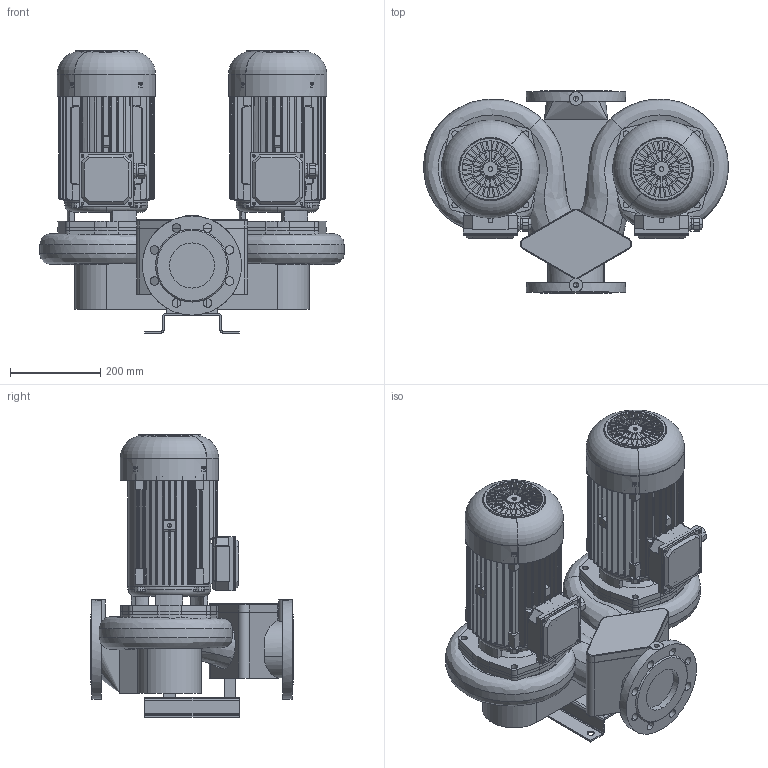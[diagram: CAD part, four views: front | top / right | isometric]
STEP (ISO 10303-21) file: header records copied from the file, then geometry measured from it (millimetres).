
FILE_DESCRIPTION(('STEP AP214'),'1');
FILE_NAME('export.stp','2018-05-28T12:33:37',(' '),(' '),'Spatial InterOp 3D',' ',' ');
FILE_SCHEMA(('AUTOMOTIVE_DESIGN { 1 0 10303 214 1 1 1 1 }'));
Length unit declared in the file: millimetre
Products named in the file (17): W_AT11022400KP112; V_TLL65AB80A1102; V_PPAT1102; V_JALKA35973; 440017; 440016; V_MKP112F19; 440015___; 440018; 440021; 480022; 480020; 480023; M25_Blind_Plug; M25_tiivisteholkk
Assembly tree (26 placements, depth 4):
  W_AT11022400KP112
    V_TLL65AB80A1102  x2
    V_PPAT1102
    V_JALKA35973
    V_MKP112F19
      440017
        440016
      440015___
      440018
      440021
      480022
      480020
      480023
      M25_Blind_Plug
      M25_tiivisteholkk
    V_MKP112F19
      440017
        440016
      440015___
      440018
      440021
      480022
      480020
      480023
      M25_Blind_Plug
      M25_tiivisteholkk
Bounding box: 675.68 x 450 x 626.2 mm (x, y, z)
Volume: 31731166 mm3; surface area: 5270278.8 mm2
Topology: 22 solids, 22 shells, 3270 faces, 9192 edges, 6044 vertices
Faces by surface type: cylinder 1635, plane 1147, cone 238, torus 192, bspline 58
Entity records: 72039 total; most frequent: CARTESIAN_POINT 20614, ORIENTED_EDGE 9982, DIRECTION 9613, EDGE_CURVE 4991, AXIS2_PLACEMENT_3D 3649, VERTEX_POINT 3288, LINE 2315, VECTOR 2315
